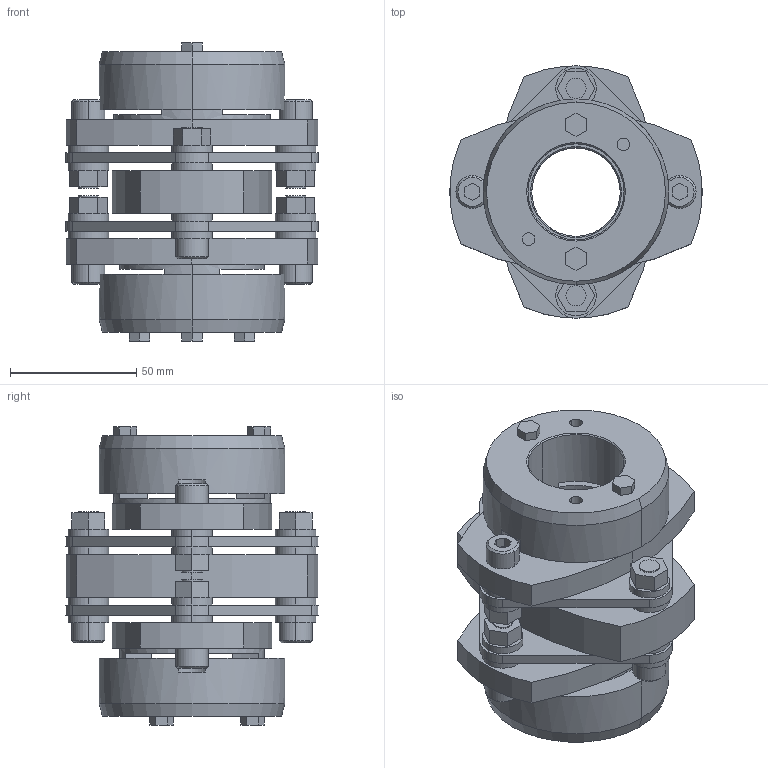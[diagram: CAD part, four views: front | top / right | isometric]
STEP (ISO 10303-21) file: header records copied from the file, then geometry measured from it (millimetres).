
FILE_DESCRIPTION((''),'2;1');
FILE_NAME('LCD-100T7-35×38.stp','2011-09-09T09:03:29',(''),(''),'AutoCAD STEP 2000i','AutoCAD 2000i',', , ');
FILE_SCHEMA(('CONFIG_CONTROL_DESIGN'));
Length unit declared in the file: millimetre
Products named in the file (10): LCD-100T7-35×38; 忣兜1; LC100T7-T038; LC100T7-T035-1; LC100T7-T035; LC100T7-T030; LC100T7-T025; LC100T7-T022-1; LC100T7-T022; LCD100-ITA
Assembly tree (9 placements, depth 2):
  LCD-100T7-35×38
    忣兜1
    LC100T7-T038
    LC100T7-T035-1
    LC100T7-T035
    LC100T7-T030
    LC100T7-T025
    LC100T7-T022-1
    LC100T7-T022
    LCD100-ITA
Bounding box: 100 x 99.93 x 118 mm (x, y, z)
Volume: 364343.4 mm3; surface area: 92772 mm2
Topology: 1 solids, 1 shells, 321 faces, 786 edges, 516 vertices
Faces by surface type: plane 173, cylinder 124, cone 24
Entity records: 9777 total; most frequent: DIRECTION 1744, CARTESIAN_POINT 1633, ORIENTED_EDGE 1572, EDGE_CURVE 786, AXIS2_PLACEMENT_3D 627, VERTEX_POINT 516, VECTOR 490, LINE 490
